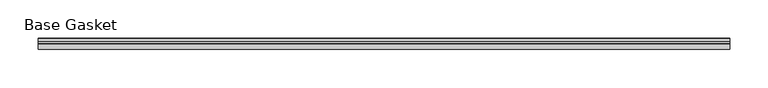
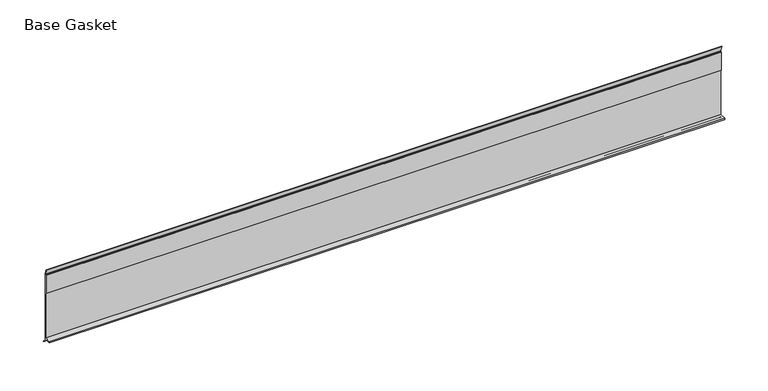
"""IFC4 building model written with IfcOpenShell, lengths in millimetres: furniture geometry, Gasket-Teknion-FHGB-AI_Healthcare-R2021 : Base Gasket."""

from ifc_helpers import new_model, si_unit, frame, origin, place, context, project, spatial, polyline, outline, extrude, source, transform, mapped, element, save


def base_gasket_e6bc4bcc(model_context):
    return source(origin(), model_context, "Body", "SweptSolid", [
        extrude(outline(polyline([(3.7283812, 98.4568417), (3.7283812, 4.3498477), (7.4222115, 0.6560174), (7.8482342, 0.0), (6.8281054, 0.3520979), (2.2043812, 4.3498477), (2.1334222, 6.3818476), (-6.2405171, 6.3818476), (-6.2405171, 7.9398773), (2.2043812, 7.9398773), (2.2043812, 71.4693447), (1.4106313, 71.4693447), (1.4106313, 96.8693477), (2.2043812, 96.8693477), (2.2043812, 98.4568417), (0.6755308, 104.4162708), (0.6755308, 105.2002997), (1.1891543, 104.587663), (3.7283812, 98.4568417)])), frame((-1527.8982117, 0.0, 0.0), z_axis=(1.0, 0.0, 0.0), x_axis=(0.0, 1.0, 0.0)), (0.0, 0.0, 1.0), 899.1979397),
    ])


if __name__ == "__main__":
    model = new_model("IFC4")
    model_context = context("Model", 3, world=origin())
    ifc_project = project(units=[si_unit("LENGTHUNIT", "METRE", prefix="MILLI")], contexts=[model_context])
    site = spatial("IfcSite", under=ifc_project)
    building = spatial("IfcBuilding", under=site)
    placement = place(None, origin())
    base_gasket_shape = base_gasket_e6bc4bcc(model_context)
    element("IfcFurniture", 1, ObjectType="Gasket-Teknion-FHGB-AI_Healthcare-R2021 : Base Gasket", at=placement, inside=building, context=model_context, shape_type="MappedRepresentation", body=[
        mapped(base_gasket_shape, transform((0.0, 0.0, 0.0), x_axis=(1.0, 0.0, 0.0), y_axis=(0.0, 1.0, 0.0), z_axis=(0.0, 0.0, 1.0))),
    ])
    save(model, "model.ifc")
